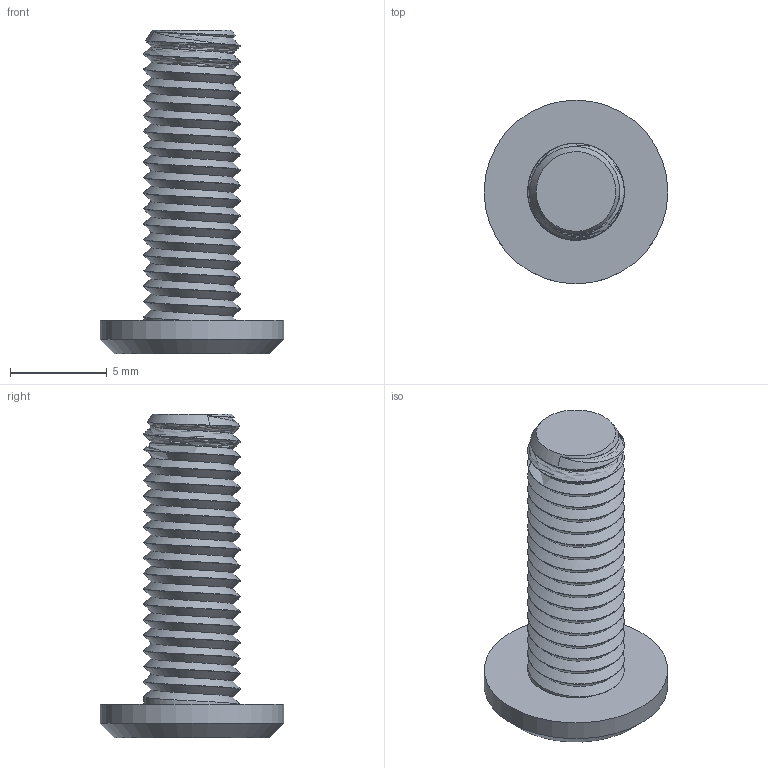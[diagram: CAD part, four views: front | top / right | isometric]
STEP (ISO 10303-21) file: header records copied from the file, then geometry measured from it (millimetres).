
FILE_DESCRIPTION(/* description */ ('STEP AP242 Edition 2','CAx-IF Rec.Pracs.---Representation and Presentation of Product Manufacturing Information (PMI)---4.0---2014-10-13','CAx-IF Rec.Pracs.---3D Tessellated Geometry---0.4---2014-09-14','2;1','CAx-IF Rec.Pracs.---User Defined Attributes---1.5---2016-08-15'),/* implementation_level */ '2;1');
FILE_NAME(/* name */ 'Final Build - M5x15 (4)',/* time_stamp */ '2026-08-31T23:26:17Z',/* author */ (''),/* organization */ (''),/* preprocessor_version */ 'ST-DEVELOPER v20',/* originating_system */ 'ONSHAPE BY PTC INC, 1.220',/* authorisation */ ' ');
FILE_SCHEMA (('AP242_MANAGED_MODEL_BASED_3D_ENGINEERING_MIM_LF { 1 0 10303 442 3 1 4 }'));
Length unit declared in the file: metre
Products named in the file (1): M5x15
Bounding box: 9.5 x 9.5 x 16.75 mm (x, y, z)
Volume: 360.6 mm3; surface area: 489.6 mm2
Topology: 1 solids, 1 shells, 19 faces, 45 edges, 30 vertices
Faces by surface type: plane 11, cylinder 3, cone 3, bspline 2
Full cylindrical faces by diameter (mm): 9.5 x1
Entity records: 4726 total; most frequent: CARTESIAN_POINT 4329, ORIENTED_EDGE 76, DIRECTION 68, EDGE_CURVE 38, VERTEX_POINT 27, AXIS2_PLACEMENT_3D 24, EDGE_LOOP 23, FACE_BOUND 23
